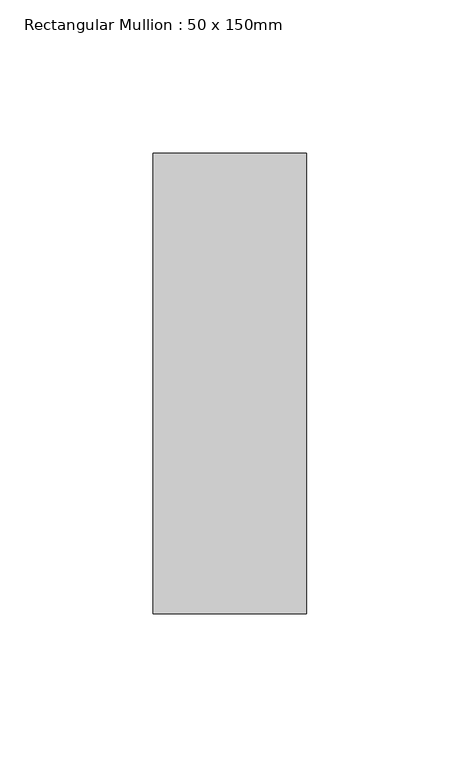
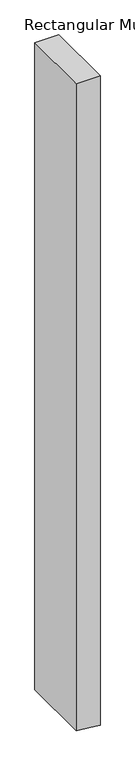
"""IFC4 building model written with IfcOpenShell, lengths in millimetres: member geometry, Rectangular Mullion : 50 x 150mm."""

from ifc_helpers import new_model, si_unit, frame, origin, place, context, project, spatial, polyline, outline, extrude, source, transform, mapped, element, save


def rectangular_mullion_50_x_150mm_51f17259(model_context):
    return source(origin(), model_context, "Body", "SweptSolid", [
        extrude(outline(polyline([(0.0, 25.0), (0.0, -25.0), (-1434.6283728, -25.0), (-1438.108532, 5.6423937), (-1440.3070402, 25.0), (0.0, 25.0)])), frame((0.0, -75.0, 0.0), z_axis=(0.0, 1.0, 0.0), x_axis=(0.0, 0.0, 1.0)), (0.0, 0.0, 1.0), 150.0),
    ])


if __name__ == "__main__":
    model = new_model("IFC4")
    model_context = context("Model", 3, world=origin())
    ifc_project = project(units=[si_unit("LENGTHUNIT", "METRE", prefix="MILLI")], contexts=[model_context])
    site = spatial("IfcSite", under=ifc_project)
    building = spatial("IfcBuilding", under=site)
    placement = place(None, origin())
    rectangular_mullion_50_x_150mm_shape = rectangular_mullion_50_x_150mm_51f17259(model_context)
    element("IfcMember", 1, ObjectType="Rectangular Mullion : 50 x 150mm", at=placement, inside=building, context=model_context, shape_type="MappedRepresentation", body=[
        mapped(rectangular_mullion_50_x_150mm_shape, transform((0.0, 0.0, 0.0), x_axis=(1.0, 0.0, 0.0), y_axis=(0.0, 1.0, 0.0), z_axis=(0.0, 0.0, 1.0))),
    ])
    save(model, "model.ifc")
